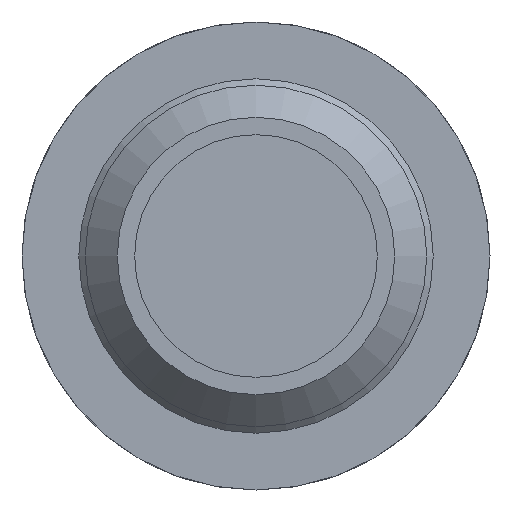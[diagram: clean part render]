
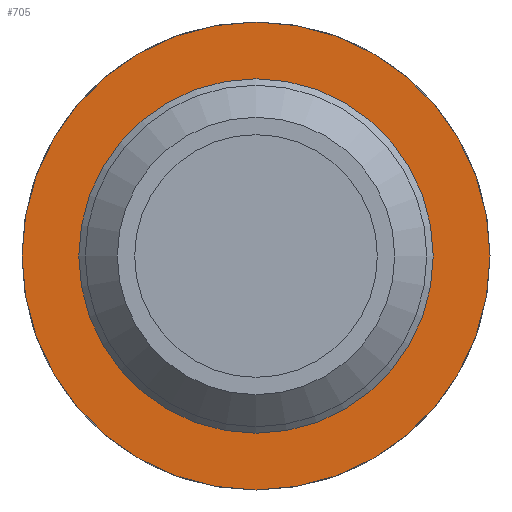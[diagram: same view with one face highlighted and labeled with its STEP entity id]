
A CAD part, left-side view. The second image highlights one B-rep face of the part: STEP entity #705.
In plain terms, the highlighted planar face has unit normal (-1, 0, 0).
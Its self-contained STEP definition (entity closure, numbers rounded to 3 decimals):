
#89=PLANE($,#808);
#109=FACE_BOUND($,#208,.T.);
#151=FACE_OUTER_BOUND($,#207,.T.);
#207=EDGE_LOOP($,(#550));
#208=EDGE_LOOP($,(#551));
#269=CIRCLE($,#807,20.45);
#270=CIRCLE($,#809,27.);
#334=VERTEX_POINT($,#1407);
#335=VERTEX_POINT($,#1410);
#423=EDGE_CURVE($,#334,#334,#269,.T.);
#424=EDGE_CURVE($,#335,#335,#270,.T.);
#550=ORIENTED_EDGE($,*,*,#424,.F.);
#551=ORIENTED_EDGE($,*,*,#423,.T.);
#705=ADVANCED_FACE($,(#151,#109),#89,.T.);
#807=AXIS2_PLACEMENT_3D($,#1408,#1021,#1022);
#808=AXIS2_PLACEMENT_3D($,#1409,#1023,#1024);
#809=AXIS2_PLACEMENT_3D($,#1411,#1025,#1026);
#1021=DIRECTION('center_axis',(1.,0.,0.));
#1022=DIRECTION('ref_axis',(0.,1.,0.));
#1023=DIRECTION('center_axis',(-1.,0.,0.));
#1024=DIRECTION('ref_axis',(0.,0.,1.));
#1025=DIRECTION('center_axis',(1.,0.,0.));
#1026=DIRECTION('ref_axis',(0.,1.,0.));
#1407=CARTESIAN_POINT('',(-26.,20.45,0.));
#1408=CARTESIAN_POINT('Origin',(-26.,0.,0.));
#1409=CARTESIAN_POINT('Origin',(-26.,23.725,0.));
#1410=CARTESIAN_POINT('',(-26.,27.,0.));
#1411=CARTESIAN_POINT('Origin',(-26.,0.,0.));
